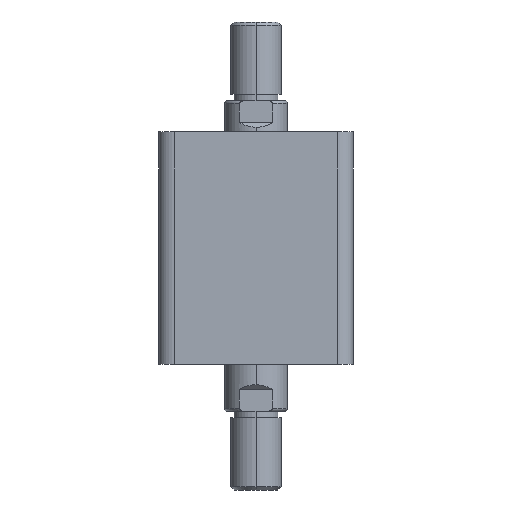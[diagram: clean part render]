
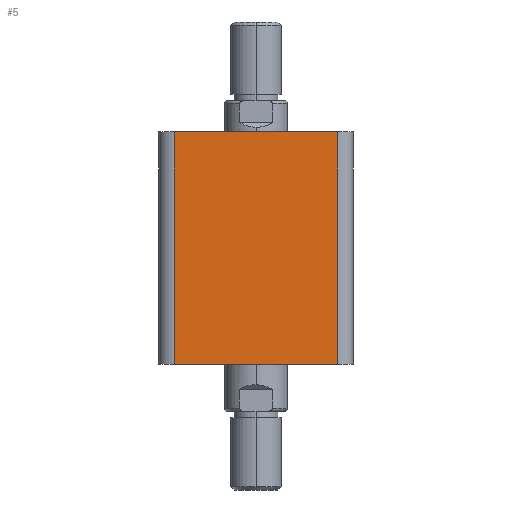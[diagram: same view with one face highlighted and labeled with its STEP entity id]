
A CAD part, left-side view. The second image highlights one B-rep face of the part: STEP entity #5.
In plain terms, the highlighted planar face has unit normal (-1, 0, 0).
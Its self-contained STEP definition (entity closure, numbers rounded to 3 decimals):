
#5 = ADVANCED_FACE ( 'NONE', ( #1868 ), #285, .F. ) ;
#274 = CARTESIAN_POINT ( 'NONE',  ( -31., 31., 74. ) ) ;
#285 = PLANE ( 'NONE',  #2415 ) ;
#286 = DIRECTION ( 'NONE',  ( 1., 0., 0. ) ) ;
#287 = DIRECTION ( 'NONE',  ( 0., 1., 0. ) ) ;
#332 = ORIENTED_EDGE ( 'NONE', *, *, #1007, .T. ) ;
#1007 = EDGE_CURVE ( 'NONE', #1687, #1670, #1387, .T. ) ;
#1008 = EDGE_CURVE ( 'NONE', #1687, #1712, #1381, .T. ) ;
#1009 = EDGE_CURVE ( 'NONE', #1722, #1712, #1391, .T. ) ;
#1158 = ORIENTED_EDGE ( 'NONE', *, *, #2403, .T. ) ;
#1159 = ORIENTED_EDGE ( 'NONE', *, *, #1009, .T. ) ;
#1160 = ORIENTED_EDGE ( 'NONE', *, *, #1008, .F. ) ;
#1381 = LINE ( 'NONE', #2222, #1392 ) ;
#1387 = LINE ( 'NONE', #2233, #1390 ) ;
#1389 = LINE ( 'NONE', #2363, #1393 ) ;
#1390 = VECTOR ( 'NONE', #2235, 1000. ) ;
#1391 = LINE ( 'NONE', #2237, #1394 ) ;
#1392 = VECTOR ( 'NONE', #2236, 1000. ) ;
#1393 = VECTOR ( 'NONE', #2362, 1000. ) ;
#1394 = VECTOR ( 'NONE', #2239, 1000. ) ;
#1496 = EDGE_LOOP ( 'NONE', ( #1158, #1159, #1160, #332 ) ) ;
#1670 = VERTEX_POINT ( 'NONE', #2302 ) ;
#1687 = VERTEX_POINT ( 'NONE', #2319 ) ;
#1712 = VERTEX_POINT ( 'NONE', #2344 ) ;
#1722 = VERTEX_POINT ( 'NONE', #2354 ) ;
#1868 = FACE_OUTER_BOUND ( 'NONE', #1496, .T. ) ;
#2222 = CARTESIAN_POINT ( 'NONE',  ( -31., 31., 74. ) ) ;
#2233 = CARTESIAN_POINT ( 'NONE',  ( -31., 26., 74. ) ) ;
#2235 = DIRECTION ( 'NONE',  ( 0., 0., -1. ) ) ;
#2236 = DIRECTION ( 'NONE',  ( 0., -1., 0. ) ) ;
#2237 = CARTESIAN_POINT ( 'NONE',  ( -31., -26., 74. ) ) ;
#2239 = DIRECTION ( 'NONE',  ( 0., 0., 1. ) ) ;
#2302 = CARTESIAN_POINT ( 'NONE',  ( -31., 26., 0. ) ) ;
#2319 = CARTESIAN_POINT ( 'NONE',  ( -31., 26., 74. ) ) ;
#2344 = CARTESIAN_POINT ( 'NONE',  ( -31., -26., 74. ) ) ;
#2354 = CARTESIAN_POINT ( 'NONE',  ( -31., -26., 0. ) ) ;
#2362 = DIRECTION ( 'NONE',  ( 0., -1., 0. ) ) ;
#2363 = CARTESIAN_POINT ( 'NONE',  ( -31., 31., 0. ) ) ;
#2403 = EDGE_CURVE ( 'NONE', #1670, #1722, #1389, .T. ) ;
#2415 = AXIS2_PLACEMENT_3D ( 'NONE', #274, #286, #287 ) ;
